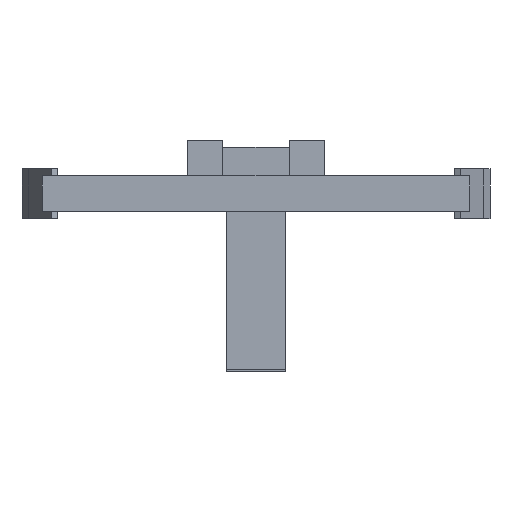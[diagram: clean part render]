
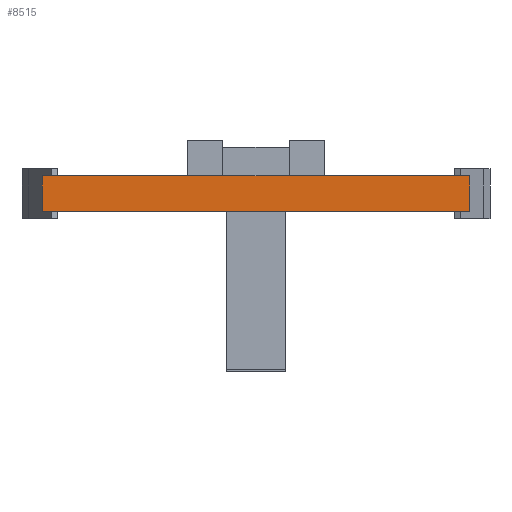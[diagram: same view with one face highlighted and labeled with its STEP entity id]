
A CAD part, front view. The second image highlights one B-rep face of the part: STEP entity #8515.
In plain terms, the highlighted planar face has unit normal (0, -1, 0).
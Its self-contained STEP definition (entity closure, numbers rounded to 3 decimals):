
#5=DIRECTION('',(1.,0.,0.));
#6=VECTOR('',#5,56.);
#7=CARTESIAN_POINT('',(-28.,125.,0.));
#8=LINE('',#7,#6);
#1133=DIRECTION('',(-1.,0.,0.));
#1134=VECTOR('',#1133,152.);
#1135=CARTESIAN_POINT('',(-28.,125.,0.));
#1136=LINE('',#1135,#1134);
#1161=DIRECTION('',(-1.,0.,0.));
#1162=VECTOR('',#1161,152.);
#1163=CARTESIAN_POINT('',(180.,125.,0.));
#1164=LINE('',#1163,#1162);
#1205=DIRECTION('',(0.,0.,-1.));
#1206=VECTOR('',#1205,30.);
#1207=CARTESIAN_POINT('',(-180.,125.,0.));
#1208=LINE('',#1207,#1206);
#1225=DIRECTION('',(-1.,0.,0.));
#1226=VECTOR('',#1225,360.);
#1227=CARTESIAN_POINT('',(180.,125.,-30.));
#1228=LINE('',#1227,#1226);
#1257=DIRECTION('',(0.,0.,-1.));
#1258=VECTOR('',#1257,30.);
#1259=CARTESIAN_POINT('',(180.,125.,0.));
#1260=LINE('',#1259,#1258);
#5241=CARTESIAN_POINT('',(180.,125.,-30.));
#5242=CARTESIAN_POINT('',(-180.,125.,-30.));
#5243=VERTEX_POINT('',#5241);
#5244=VERTEX_POINT('',#5242);
#5249=CARTESIAN_POINT('',(180.,125.,0.));
#5250=VERTEX_POINT('',#5249);
#5251=CARTESIAN_POINT('',(-180.,125.,0.));
#5252=VERTEX_POINT('',#5251);
#5257=CARTESIAN_POINT('',(28.,125.,0.));
#5258=VERTEX_POINT('',#5257);
#5307=CARTESIAN_POINT('',(-28.,125.,0.));
#5308=VERTEX_POINT('',#5307);
#8501=CARTESIAN_POINT('',(180.,125.,0.));
#8502=DIRECTION('',(0.,-1.,0.));
#8503=DIRECTION('',(-1.,0.,0.));
#8504=AXIS2_PLACEMENT_3D('',#8501,#8502,#8503);
#8505=PLANE('',#8504);
#8506=ORIENTED_EDGE('',*,*,#8361,.F.);
#8508=ORIENTED_EDGE('',*,*,#8507,.T.);
#8509=ORIENTED_EDGE('',*,*,#8483,.T.);
#8510=ORIENTED_EDGE('',*,*,#8467,.F.);
#8511=ORIENTED_EDGE('',*,*,#8339,.F.);
#8512=ORIENTED_EDGE('',*,*,#6948,.T.);
#8513=EDGE_LOOP('',(#8506,#8508,#8509,#8510,#8511,#8512));
#8514=FACE_OUTER_BOUND('',#8513,.F.);
#8515=ADVANCED_FACE('',(#8514),#8505,.T.);
#6948=EDGE_CURVE('',#5308,#5258,#8,.T.);
#8339=EDGE_CURVE('',#5308,#5252,#1136,.T.);
#8361=EDGE_CURVE('',#5250,#5258,#1164,.T.);
#8467=EDGE_CURVE('',#5252,#5244,#1208,.T.);
#8483=EDGE_CURVE('',#5243,#5244,#1228,.T.);
#8507=EDGE_CURVE('',#5250,#5243,#1260,.T.);
